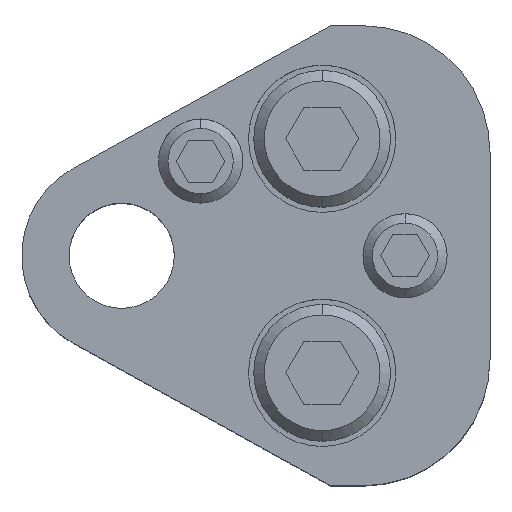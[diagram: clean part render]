
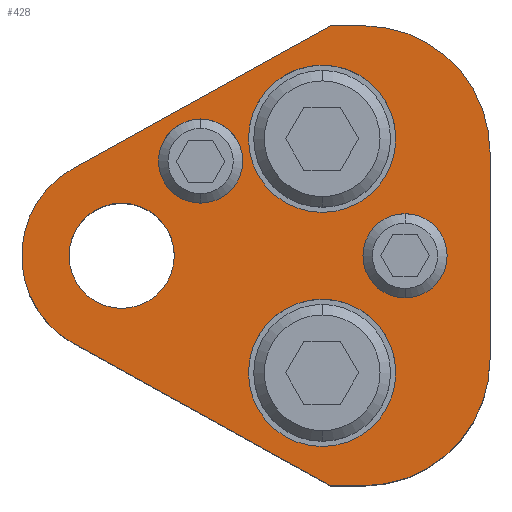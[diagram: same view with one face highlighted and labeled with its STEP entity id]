
A CAD part, top view. The second image highlights one B-rep face of the part: STEP entity #428.
In plain terms, the highlighted planar face has unit normal (0, 0, 1).
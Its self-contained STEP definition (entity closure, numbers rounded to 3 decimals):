
#198=FACE_BOUND('',#745,.T.);
#199=FACE_BOUND('',#746,.T.);
#200=FACE_BOUND('',#747,.T.);
#201=FACE_BOUND('',#748,.T.);
#202=FACE_BOUND('',#749,.T.);
#203=FACE_BOUND('',#750,.T.);
#276=CIRCLE('',#2330,12.);
#278=CIRCLE('',#2334,12.);
#281=CIRCLE('',#2340,9.5);
#282=CIRCLE('',#2342,4.);
#284=CIRCLE('',#2345,4.);
#286=CIRCLE('',#2348,4.);
#288=CIRCLE('',#2351,4.);
#298=CIRCLE('',#2366,7.);
#299=CIRCLE('',#2367,7.);
#300=CIRCLE('',#2368,7.);
#301=CIRCLE('',#2369,7.);
#302=CIRCLE('',#2370,5.);
#303=CIRCLE('',#2371,5.);
#428=ADVANCED_FACE('',(#198,#199,#200,#201,#202,#203),#522,.T.);
#522=PLANE('',#2372);
#745=EDGE_LOOP('',(#1129,#1130,#1131,#1132,#1133,#1134,#1135,#1136));
#746=EDGE_LOOP('',(#1137,#1138));
#747=EDGE_LOOP('',(#1139,#1140));
#748=EDGE_LOOP('',(#1141,#1142));
#749=EDGE_LOOP('',(#1143,#1144));
#750=EDGE_LOOP('',(#1145,#1146));
#1129=ORIENTED_EDGE('',*,*,#1724,.T.);
#1130=ORIENTED_EDGE('',*,*,#1728,.T.);
#1131=ORIENTED_EDGE('',*,*,#1731,.T.);
#1132=ORIENTED_EDGE('',*,*,#1734,.T.);
#1133=ORIENTED_EDGE('',*,*,#1737,.T.);
#1134=ORIENTED_EDGE('',*,*,#1740,.T.);
#1135=ORIENTED_EDGE('',*,*,#1743,.T.);
#1136=ORIENTED_EDGE('',*,*,#1746,.T.);
#1137=ORIENTED_EDGE('',*,*,#1771,.F.);
#1138=ORIENTED_EDGE('',*,*,#1772,.F.);
#1139=ORIENTED_EDGE('',*,*,#1773,.F.);
#1140=ORIENTED_EDGE('',*,*,#1774,.F.);
#1141=ORIENTED_EDGE('',*,*,#1757,.F.);
#1142=ORIENTED_EDGE('',*,*,#1753,.F.);
#1143=ORIENTED_EDGE('',*,*,#1751,.F.);
#1144=ORIENTED_EDGE('',*,*,#1747,.F.);
#1145=ORIENTED_EDGE('',*,*,#1775,.T.);
#1146=ORIENTED_EDGE('',*,*,#1776,.T.);
#1492=VERTEX_POINT('',#3476);
#1493=VERTEX_POINT('',#3478);
#1496=VERTEX_POINT('',#3485);
#1498=VERTEX_POINT('',#3491);
#1500=VERTEX_POINT('',#3497);
#1502=VERTEX_POINT('',#3503);
#1504=VERTEX_POINT('',#3509);
#1506=VERTEX_POINT('',#3515);
#1507=VERTEX_POINT('',#3523);
#1508=VERTEX_POINT('',#3524);
#1511=VERTEX_POINT('',#3535);
#1512=VERTEX_POINT('',#3536);
#1523=VERTEX_POINT('',#3571);
#1524=VERTEX_POINT('',#3572);
#1525=VERTEX_POINT('',#3575);
#1526=VERTEX_POINT('',#3576);
#1527=VERTEX_POINT('',#3579);
#1528=VERTEX_POINT('',#3580);
#1724=EDGE_CURVE('',#1493,#1492,#1968,.T.);
#1728=EDGE_CURVE('',#1492,#1496,#1972,.T.);
#1731=EDGE_CURVE('',#1496,#1498,#276,.T.);
#1734=EDGE_CURVE('',#1498,#1500,#1976,.T.);
#1737=EDGE_CURVE('',#1500,#1502,#278,.T.);
#1740=EDGE_CURVE('',#1502,#1504,#1980,.T.);
#1743=EDGE_CURVE('',#1504,#1506,#1983,.T.);
#1746=EDGE_CURVE('',#1506,#1493,#281,.T.);
#1747=EDGE_CURVE('',#1507,#1508,#282,.T.);
#1751=EDGE_CURVE('',#1508,#1507,#284,.T.);
#1753=EDGE_CURVE('',#1511,#1512,#286,.T.);
#1757=EDGE_CURVE('',#1512,#1511,#288,.T.);
#1771=EDGE_CURVE('',#1523,#1524,#298,.T.);
#1772=EDGE_CURVE('',#1524,#1523,#299,.T.);
#1773=EDGE_CURVE('',#1525,#1526,#300,.T.);
#1774=EDGE_CURVE('',#1526,#1525,#301,.T.);
#1775=EDGE_CURVE('',#1527,#1528,#302,.T.);
#1776=EDGE_CURVE('',#1528,#1527,#303,.T.);
#1968=LINE('',#3477,#2132);
#1972=LINE('',#3486,#2136);
#1976=LINE('',#3498,#2140);
#1980=LINE('',#3510,#2144);
#1983=LINE('',#3516,#2147);
#2132=VECTOR('',#2758,1.);
#2136=VECTOR('',#2764,1.);
#2140=VECTOR('',#2776,1.);
#2144=VECTOR('',#2788,1.);
#2147=VECTOR('',#2793,1.);
#2330=AXIS2_PLACEMENT_3D('',#3492,#2769,#2770);
#2334=AXIS2_PLACEMENT_3D('',#3504,#2781,#2782);
#2340=AXIS2_PLACEMENT_3D('',#3520,#2799,#2800);
#2342=AXIS2_PLACEMENT_3D('',#3522,#2803,#2804);
#2345=AXIS2_PLACEMENT_3D('',#3531,#2811,#2812);
#2348=AXIS2_PLACEMENT_3D('',#3534,#2817,#2818);
#2351=AXIS2_PLACEMENT_3D('',#3543,#2825,#2826);
#2366=AXIS2_PLACEMENT_3D('',#3570,#2859,#2860);
#2367=AXIS2_PLACEMENT_3D('',#3573,#2861,#2862);
#2368=AXIS2_PLACEMENT_3D('',#3574,#2863,#2864);
#2369=AXIS2_PLACEMENT_3D('',#3577,#2865,#2866);
#2370=AXIS2_PLACEMENT_3D('',#3578,#2867,#2868);
#2371=AXIS2_PLACEMENT_3D('',#3581,#2869,#2870);
#2372=AXIS2_PLACEMENT_3D('',#3582,#2871,#2872);
#2758=DIRECTION('',(0.875,-0.485,0.));
#2764=DIRECTION('',(1.,0.,0.));
#2769=DIRECTION('',(0.,0.,1.));
#2770=DIRECTION('',(-0.707,0.707,0.));
#2776=DIRECTION('',(0.,1.,0.));
#2781=DIRECTION('',(0.,0.,1.));
#2782=DIRECTION('',(-0.707,-0.707,0.));
#2788=DIRECTION('',(-1.,0.,0.));
#2793=DIRECTION('',(-0.875,-0.485,0.));
#2799=DIRECTION('',(0.,0.,1.));
#2800=DIRECTION('',(1.,0.,0.));
#2803=DIRECTION('',(0.,0.,1.));
#2804=DIRECTION('',(-1.,0.,0.));
#2811=DIRECTION('',(0.,0.,1.));
#2812=DIRECTION('',(1.,0.,0.));
#2817=DIRECTION('',(0.,0.,1.));
#2818=DIRECTION('',(-1.,0.,0.));
#2825=DIRECTION('',(0.,0.,1.));
#2826=DIRECTION('',(1.,0.,0.));
#2859=DIRECTION('',(0.,0.,1.));
#2860=DIRECTION('',(1.,0.,0.));
#2861=DIRECTION('',(0.,0.,1.));
#2862=DIRECTION('',(-1.,0.,0.));
#2863=DIRECTION('',(0.,0.,1.));
#2864=DIRECTION('',(1.,0.,0.));
#2865=DIRECTION('',(0.,0.,1.));
#2866=DIRECTION('',(-1.,0.,0.));
#2867=DIRECTION('',(0.,0.,-1.));
#2868=DIRECTION('',(-1.,0.,0.));
#2869=DIRECTION('',(0.,0.,-1.));
#2870=DIRECTION('',(1.,0.,0.));
#2871=DIRECTION('',(0.,0.,1.));
#2872=DIRECTION('',(-0.875,0.485,0.));
#3476=CARTESIAN_POINT('',(19.823,-21.85,25.));
#3477=CARTESIAN_POINT('',(19.823,-21.85,25.));
#3478=CARTESIAN_POINT('',(-4.606,-8.309,25.));
#3485=CARTESIAN_POINT('',(23.,-21.85,25.));
#3486=CARTESIAN_POINT('',(19.823,-21.85,25.));
#3491=CARTESIAN_POINT('',(35.,-9.85,25.));
#3492=CARTESIAN_POINT('',(23.,-9.85,25.));
#3497=CARTESIAN_POINT('',(35.,9.85,25.));
#3498=CARTESIAN_POINT('',(35.,9.85,25.));
#3503=CARTESIAN_POINT('',(23.,21.85,25.));
#3504=CARTESIAN_POINT('',(23.,9.85,25.));
#3509=CARTESIAN_POINT('',(19.823,21.85,25.));
#3510=CARTESIAN_POINT('',(19.823,21.85,25.));
#3515=CARTESIAN_POINT('',(-4.606,8.309,25.));
#3516=CARTESIAN_POINT('',(19.823,21.85,25.));
#3520=CARTESIAN_POINT('',(0.,0.,25.));
#3522=CARTESIAN_POINT('',(7.5,9.,25.));
#3523=CARTESIAN_POINT('',(7.5,5.,25.));
#3524=CARTESIAN_POINT('',(7.5,13.,25.));
#3531=CARTESIAN_POINT('',(7.5,9.,25.));
#3534=CARTESIAN_POINT('',(26.925,0.,25.));
#3535=CARTESIAN_POINT('',(26.925,-4.,25.));
#3536=CARTESIAN_POINT('',(26.925,4.,25.));
#3543=CARTESIAN_POINT('',(26.925,0.,25.));
#3570=CARTESIAN_POINT('',(19.05,11.12,25.));
#3571=CARTESIAN_POINT('',(19.05,18.12,25.));
#3572=CARTESIAN_POINT('',(19.05,4.12,25.));
#3573=CARTESIAN_POINT('',(19.05,11.12,25.));
#3574=CARTESIAN_POINT('',(19.05,-11.12,25.));
#3575=CARTESIAN_POINT('',(19.05,-4.12,25.));
#3576=CARTESIAN_POINT('',(19.05,-18.12,25.));
#3577=CARTESIAN_POINT('',(19.05,-11.12,25.));
#3578=CARTESIAN_POINT('',(0.,0.,25.));
#3579=CARTESIAN_POINT('',(0.,5.,25.));
#3580=CARTESIAN_POINT('',(0.,-5.,25.));
#3581=CARTESIAN_POINT('',(0.,0.,25.));
#3582=CARTESIAN_POINT('',(-4.606,-8.309,25.));
